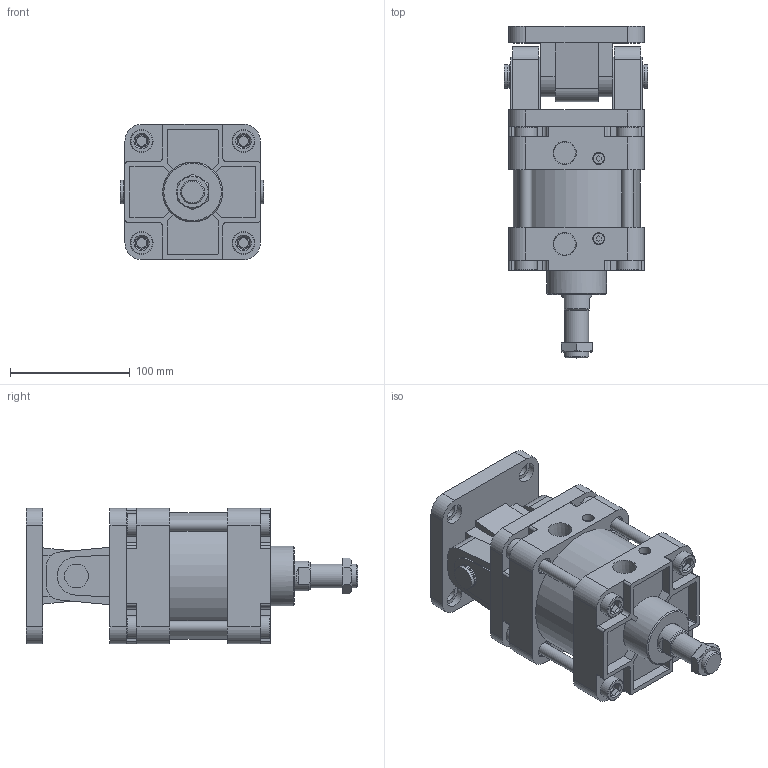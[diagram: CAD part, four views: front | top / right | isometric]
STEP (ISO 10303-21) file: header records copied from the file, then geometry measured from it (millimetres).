
FILE_DESCRIPTION(/* description */ ('Unknown'),/* implementation_level */ '2;1');
FILE_NAME(/* name */ 'WA100-0-CD',/* time_stamp */ '2026-07-17T16:57:32+08:00',/* author */ ('Unknown'),/* organization */ ('Unknown'),/* preprocessor_version */ 'ST-DEVELOPER v16.7',/* originating_system */ 'DEX',/* authorisation */ $);
FILE_SCHEMA (('CONFIG_CONTROL_DESIGN'));
Length unit declared in the file: millimetre
Products named in the file (10): WA100-0-CD; WA100_前; WA100_後1; WA100_鋁; WA100_､ﾟｶbｬ｡ﾃ_;m^XD}; M20-1.5P-8_螺; WA100_CA; WA100_CBP; WA100_T帽牙; WA100_CB
Assembly tree (12 placements, depth 2):
  WA100-0-CD
    WA100_前
    WA100_後1
    WA100_鋁
    WA100_､ﾟｶbｬ｡ﾃ_;m^XD}
    M20-1.5P-8_螺
    WA100_CA
    WA100_CBP
    WA100_T帽牙  x4
    WA100_CB
Bounding box: 120 x 277 x 113 mm (x, y, z)
Volume: 1803826.6 mm3; surface area: 310263.9 mm2
Topology: 12 solids, 12 shells, 456 faces, 1116 edges, 748 vertices
Faces by surface type: plane 278, cylinder 147, cone 23, torus 8
Full cylindrical faces by diameter (mm): 8.5 x8, 9 x2, 10 x6, 11 x8, 14 x8, 14.2 x8, 17 x8, 18.376 x1, 18.8 x2, 19 x8, 20 x7, 25 x2, 26 x1, 50 x1, 99.5 x1, 100 x3, 106 x1
Entity records: 12256 total; most frequent: CARTESIAN_POINT 1872, DIRECTION 1808, ORIENTED_EDGE 1616, EDGE_CURVE 808, AXIS2_PLACEMENT_3D 658, VERTEX_POINT 574, EDGE_LOOP 506, FACE_BOUND 506
